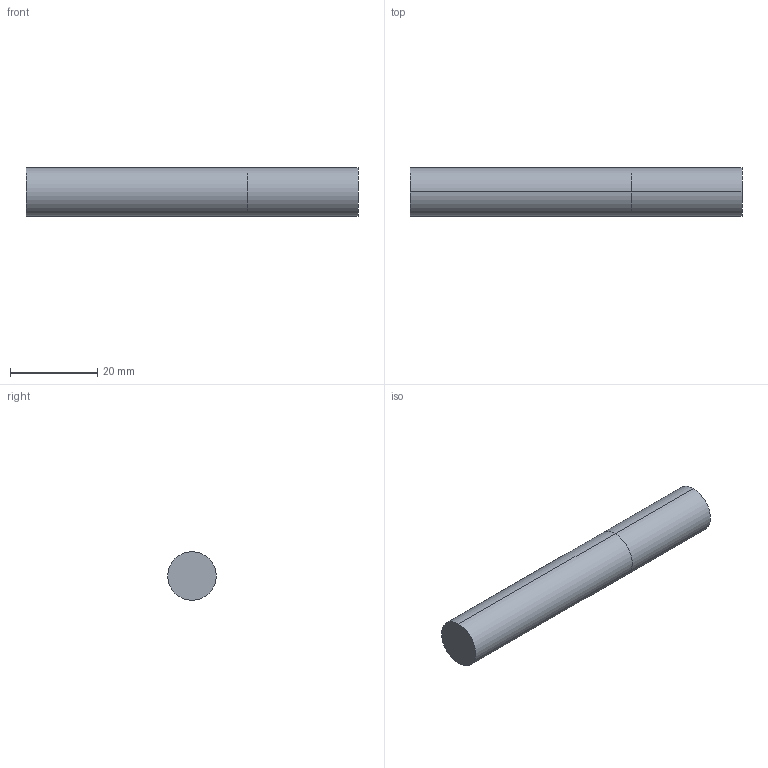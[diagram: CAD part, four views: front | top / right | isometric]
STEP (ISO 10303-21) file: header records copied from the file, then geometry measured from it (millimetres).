
FILE_DESCRIPTION (( 'STEP AP214' ), '1' );
FILE_NAME ('SSI50437-000.STEP', '2025-05-23T15:17:32', ( '' ), ( '' ), 'SwSTEP 2.0', 'SolidWorks 2023', '' );
FILE_SCHEMA (( 'AUTOMOTIVE_DESIGN' ));
Length unit declared in the file: inch
Products named in the file (3): SSI5 Imperial LOC ONLY_SSI50437-000; SSI5 Imperial SHANK ONLY_SSI50437-000; SSI50437-000
Assembly tree (2 placements, depth 2):
  SSI50437-000
    SSI5 Imperial LOC ONLY_SSI50437-000
    SSI5 Imperial SHANK ONLY_SSI50437-000
Bounding box: 76.2 x 11.11 x 11.11 mm (x, y, z)
Volume: 7390.4 mm3; surface area: 3048.2 mm2
Topology: 2 solids, 2 shells, 8 faces, 12 edges, 8 vertices
Faces by surface type: cylinder 4, plane 4
Entity records: 334 total; most frequent: DIRECTION 46, CARTESIAN_POINT 33, ORIENTED_EDGE 24, AXIS2_PLACEMENT_3D 21, EDGE_CURVE 12, DIMENSIONAL_EXPONENTS 9, UNCERTAINTY_MEASURE_WITH_UNIT 9, LENGTH_MEASURE_WITH_UNIT 9
